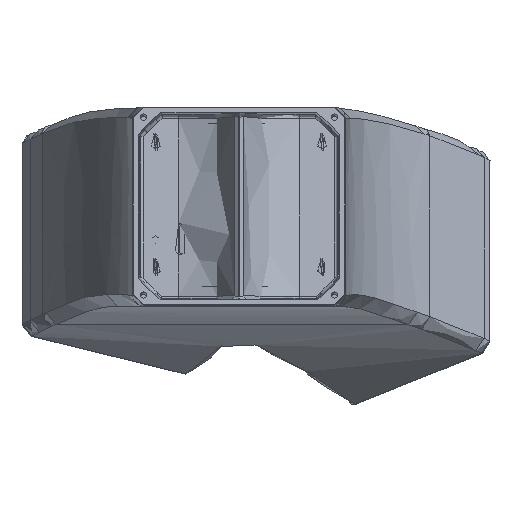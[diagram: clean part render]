
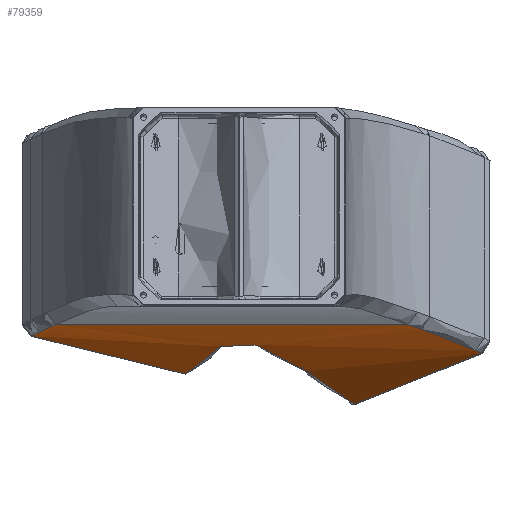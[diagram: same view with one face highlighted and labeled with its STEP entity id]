
A CAD part, top view. The second image highlights one B-rep face of the part: STEP entity #79359.
In plain terms, the highlighted cylindrical face has radius 786 mm (diameter 1572 mm), a partial arc.
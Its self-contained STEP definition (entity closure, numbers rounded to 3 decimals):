
#78459=CARTESIAN_POINT('',(-259.372,-678.017,-90.054));
#78460=VERTEX_POINT('',#78459);
#79179=CARTESIAN_POINT('',(-282.042,-688.605,-126.662));
#79180=VERTEX_POINT('',#79179);
#79189=CARTESIAN_POINT('',(-264.518,-680.347,-98.709));
#79190=VERTEX_POINT('',#79189);
#79191=CARTESIAN_POINT('',(-282.042,-688.605,-126.662));
#79192=CARTESIAN_POINT('',(-276.052,-685.706,-117.48));
#79193=CARTESIAN_POINT('',(-270.208,-682.95,-108.161));
#79194=CARTESIAN_POINT('',(-264.518,-680.347,-98.709));
#79195=QUASI_UNIFORM_CURVE('',3,(#79191,#79192,#79193,#79194),.UNSPECIFIED.,.F.,.U.);
#79196=EDGE_CURVE('',#79180,#79190,#79195,.T.);
#79233=CARTESIAN_POINT('',(-264.518,-680.347,-98.709));
#79234=CARTESIAN_POINT('',(-262.786,-679.555,-95.833));
#79235=CARTESIAN_POINT('',(-261.071,-678.779,-92.948));
#79236=CARTESIAN_POINT('',(-259.372,-678.017,-90.054));
#79237=QUASI_UNIFORM_CURVE('',3,(#79233,#79234,#79235,#79236),.UNSPECIFIED.,.F.,.U.);
#79238=EDGE_CURVE('',#79190,#78460,#79237,.T.);
#79246=CARTESIAN_POINT('',(-292.758,-1438.146,109.946));
#79247=DIRECTION('',(1.0,0.0,0.0));
#79248=DIRECTION('',(0.0,-1.0,0.));
#79249=AXIS2_PLACEMENT_3D('',#79246,#79247,#79248);
#79250=CYLINDRICAL_SURFACE('',#79249,786.0);
#79251=ORIENTED_EDGE('',*,*,#79238,.F.);
#79252=ORIENTED_EDGE('',*,*,#79196,.F.);
#79253=CARTESIAN_POINT('',(-292.758,-693.989,-143.089));
#79254=VERTEX_POINT('',#79253);
#79255=CARTESIAN_POINT('',(-292.758,-693.989,-143.089));
#79256=CARTESIAN_POINT('',(-289.194,-692.133,-137.629));
#79257=CARTESIAN_POINT('',(-285.624,-690.338,-132.152));
#79258=CARTESIAN_POINT('',(-282.042,-688.605,-126.662));
#79259=QUASI_UNIFORM_CURVE('',3,(#79255,#79256,#79257,#79258),.UNSPECIFIED.,.F.,.U.);
#79260=EDGE_CURVE('',#79254,#79180,#79259,.T.);
#79261=ORIENTED_EDGE('',*,*,#79260,.F.);
#79262=CARTESIAN_POINT('',(-74.873,-747.155,-264.657));
#79263=VERTEX_POINT('',#79262);
#79264=CARTESIAN_POINT('',(-292.758,-693.989,-143.089));
#79265=CARTESIAN_POINT('',(-268.531,-698.738,-157.053));
#79266=CARTESIAN_POINT('',(-220.092,-709.002,-184.676));
#79267=CARTESIAN_POINT('',(-147.425,-726.737,-225.22));
#79268=CARTESIAN_POINT('',(-99.055,-740.084,-251.615));
#79269=CARTESIAN_POINT('',(-74.873,-747.155,-264.657));
#79270=B_SPLINE_CURVE_WITH_KNOTS('',3,(#79264,#79265,#79266,#79267,#79268,#79269),.UNSPECIFIED.,.F.,.U.,(4,1,1,4),(0.0,0.333,0.667,1.0),.UNSPECIFIED.);
#79271=EDGE_CURVE('',#79254,#79263,#79270,.T.);
#79272=ORIENTED_EDGE('',*,*,#79271,.T.);
#79273=CARTESIAN_POINT('',(-26.062,-708.488,-182.277));
#79274=VERTEX_POINT('',#79273);
#79275=CARTESIAN_POINT('',(-26.062,-708.488,-182.277));
#79276=CARTESIAN_POINT('',(-34.838,-714.957,-198.431));
#79277=CARTESIAN_POINT('',(-48.427,-725.389,-222.142));
#79278=CARTESIAN_POINT('',(-64.805,-738.764,-248.933));
#79279=CARTESIAN_POINT('',(-72.197,-744.86,-260.407));
#79280=CARTESIAN_POINT('',(-74.715,-747.021,-264.41));
#79281=CARTESIAN_POINT('',(-74.873,-747.155,-264.657));
#79282=B_SPLINE_CURVE_WITH_KNOTS('',3,(#79275,#79276,#79277,#79278,#79279,#79280,#79281),.UNSPECIFIED.,.F.,.U.,(4,1,1,1,4),(0.0,0.566,0.849,0.991,1.0),.UNSPECIFIED.);
#79283=EDGE_CURVE('',#79274,#79263,#79282,.T.);
#79284=ORIENTED_EDGE('',*,*,#79283,.F.);
#79285=CARTESIAN_POINT('',(24.186,-706.493,-177.247));
#79286=VERTEX_POINT('',#79285);
#79287=CARTESIAN_POINT('',(-26.062,-708.488,-182.277));
#79288=CARTESIAN_POINT('',(-24.882,-707.617,-180.104));
#79289=CARTESIAN_POINT('',(-22.053,-706.072,-176.191));
#79290=CARTESIAN_POINT('',(-16.419,-704.244,-171.46));
#79291=CARTESIAN_POINT('',(-9.75,-703.009,-168.21));
#79292=CARTESIAN_POINT('',(-2.462,-702.396,-166.582));
#79293=CARTESIAN_POINT('',(5.1,-702.46,-166.752));
#79294=CARTESIAN_POINT('',(12.329,-703.168,-168.632));
#79295=CARTESIAN_POINT('',(18.881,-704.504,-172.139));
#79296=CARTESIAN_POINT('',(22.535,-705.758,-175.375));
#79297=CARTESIAN_POINT('',(24.186,-706.493,-177.247));
#79298=B_SPLINE_CURVE_WITH_KNOTS('',3,(#79287,#79288,#79289,#79290,#79291,#79292,#79293,#79294,#79295,#79296,#79297),.UNSPECIFIED.,.F.,.U.,(4,1,1,1,1,1,1,1,4),(0.0,0.125,0.25,0.375,0.5,0.625,0.75,0.875,1.0),.UNSPECIFIED.);
#79299=EDGE_CURVE('',#79274,#79286,#79298,.T.);
#79300=ORIENTED_EDGE('',*,*,#79299,.T.);
#79301=CARTESIAN_POINT('',(163.992,-789.666,-334.203));
#79302=VERTEX_POINT('',#79301);
#79303=CARTESIAN_POINT('',(163.992,-789.666,-334.203));
#79304=CARTESIAN_POINT('',(162.89,-788.828,-332.979));
#79305=CARTESIAN_POINT('',(155.503,-783.252,-324.793));
#79306=CARTESIAN_POINT('',(135.465,-768.647,-302.434));
#79307=CARTESIAN_POINT('',(90.482,-739.15,-252.167));
#79308=CARTESIAN_POINT('',(50.891,-718.378,-207.524));
#79309=CARTESIAN_POINT('',(24.186,-706.493,-177.247));
#79310=B_SPLINE_CURVE_WITH_KNOTS('',3,(#79303,#79304,#79305,#79306,#79307,#79308,#79309),.UNSPECIFIED.,.F.,.U.,(4,1,1,1,4),(0.0,0.024,0.164,0.443,1.0),.UNSPECIFIED.);
#79311=EDGE_CURVE('',#79302,#79286,#79310,.T.);
#79312=ORIENTED_EDGE('',*,*,#79311,.F.);
#79313=CARTESIAN_POINT('',(342.631,-718.065,-205.133));
#79314=VERTEX_POINT('',#79313);
#79315=CARTESIAN_POINT('',(163.992,-789.666,-334.203));
#79316=CARTESIAN_POINT('',(183.716,-780.292,-320.516));
#79317=CARTESIAN_POINT('',(223.262,-762.514,-292.683));
#79318=CARTESIAN_POINT('',(282.87,-738.61,-249.62));
#79319=CARTESIAN_POINT('',(322.707,-724.606,-220.083));
#79320=CARTESIAN_POINT('',(342.631,-718.065,-205.133));
#79321=B_SPLINE_CURVE_WITH_KNOTS('',3,(#79315,#79316,#79317,#79318,#79319,#79320),.UNSPECIFIED.,.F.,.U.,(4,1,1,4),(0.0,0.333,0.667,1.0),.UNSPECIFIED.);
#79322=EDGE_CURVE('',#79302,#79314,#79321,.T.);
#79323=ORIENTED_EDGE('',*,*,#79322,.T.);
#79324=CARTESIAN_POINT('',(334.728,-714.305,-196.402));
#79325=VERTEX_POINT('',#79324);
#79326=CARTESIAN_POINT('',(334.728,-714.305,-196.402));
#79327=CARTESIAN_POINT('',(337.371,-715.537,-199.314));
#79328=CARTESIAN_POINT('',(339.995,-716.795,-202.231));
#79329=CARTESIAN_POINT('',(342.631,-718.065,-205.133));
#79330=QUASI_UNIFORM_CURVE('',3,(#79326,#79327,#79328,#79329),.UNSPECIFIED.,.F.,.U.);
#79331=EDGE_CURVE('',#79325,#79314,#79330,.T.);
#79332=ORIENTED_EDGE('',*,*,#79331,.F.);
#79333=CARTESIAN_POINT('',(258.451,-684.108,-111.916));
#79334=VERTEX_POINT('',#79333);
#79335=CARTESIAN_POINT('',(258.451,-684.108,-111.916));
#79336=CARTESIAN_POINT('',(284.082,-692.507,-140.46));
#79337=CARTESIAN_POINT('',(309.546,-702.564,-168.662));
#79338=CARTESIAN_POINT('',(334.728,-714.305,-196.402));
#79339=QUASI_UNIFORM_CURVE('',3,(#79335,#79336,#79337,#79338),.UNSPECIFIED.,.F.,.U.);
#79340=EDGE_CURVE('',#79334,#79325,#79339,.T.);
#79341=ORIENTED_EDGE('',*,*,#79340,.F.);
#79342=CARTESIAN_POINT('',(239.898,-678.017,-90.054));
#79343=VERTEX_POINT('',#79342);
#79344=CARTESIAN_POINT('',(239.898,-678.017,-90.054));
#79345=CARTESIAN_POINT('',(245.857,-679.975,-97.495));
#79346=CARTESIAN_POINT('',(252.044,-682.009,-104.78));
#79347=CARTESIAN_POINT('',(258.451,-684.108,-111.916));
#79348=QUASI_UNIFORM_CURVE('',3,(#79344,#79345,#79346,#79347),.UNSPECIFIED.,.F.,.U.);
#79349=EDGE_CURVE('',#79343,#79334,#79348,.T.);
#79350=ORIENTED_EDGE('',*,*,#79349,.F.);
#79351=CARTESIAN_POINT('',(239.898,-678.017,-90.054));
#79352=DIRECTION('',(-1.,0.,0.));
#79353=VECTOR('',#79352,499.27);
#79354=LINE('',#79351,#79353);
#79355=EDGE_CURVE('',#79343,#78460,#79354,.T.);
#79356=ORIENTED_EDGE('',*,*,#79355,.T.);
#79357=EDGE_LOOP('',(#79251,#79252,#79261,#79272,#79284,#79300,#79312,#79323,#79332,#79341,#79350,#79356));
#79358=FACE_OUTER_BOUND('',#79357,.T.);
#79359=ADVANCED_FACE('',(#79358),#79250,.F.);
